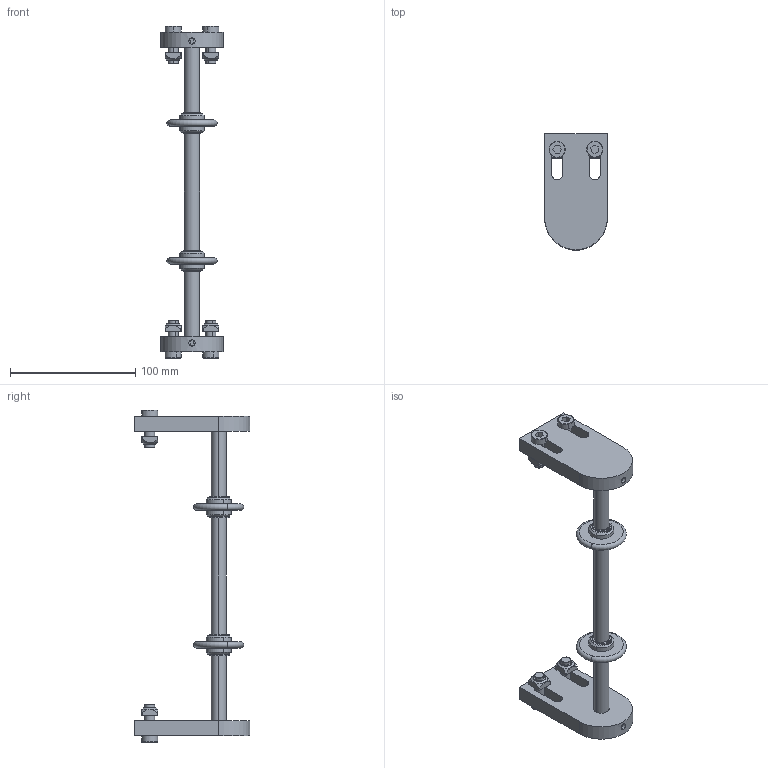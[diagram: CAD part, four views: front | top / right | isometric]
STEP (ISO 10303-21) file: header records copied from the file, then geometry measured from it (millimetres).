
FILE_DESCRIPTION (( 'STEP AP203' ), '1' );
FILE_NAME ('084.050.KSW.STEP', '2018-03-12T15:21:38', ( '' ), ( '' ), 'SwSTEP 2.0', 'SolidWorks 2016', '' );
FILE_SCHEMA (( 'CONFIG_CONTROL_DESIGN' ));
Length unit declared in the file: millimetre
Products named in the file (8): Parte359^084.050.KSW.200; 084.301.000 VITI ALUSIC_084.301.004; 084.802.030; GRANI A PUNTA PIATTA UNI 5923_M6x16 UNI 5923; 084.302.000 DADI ALUSIC 13x13-1_084.302.004; 084.050.KSW; circlip for shafts normal_din_Circlip DIN 471 - 12 x 1; 084.802.041
Assembly tree (19 placements, depth 2):
  084.050.KSW
    Parte359^084.050.KSW.200
    084.802.041  x2
    084.802.030  x2
    GRANI A PUNTA PIATTA UNI 5923_M6x16 UNI 5923  x2
    084.301.000 VITI ALUSIC_084.301.004  x4
    084.302.000 DADI ALUSIC 13x13-1_084.302.004  x4
    circlip for shafts normal_din_Circlip DIN 471 - 12 x 1  x4
Bounding box: 50 x 92.5 x 265 mm (x, y, z)
Volume: 144260.2 mm3; surface area: 52476.6 mm2
Topology: 19 solids, 19 shells, 360 faces, 878 edges, 572 vertices
Faces by surface type: cylinder 140, plane 136, torus 36, cone 32, bspline 16
Entity records: 5118 total; most frequent: CARTESIAN_POINT 1118, DIRECTION 630, ORIENTED_EDGE 560, EDGE_CURVE 280, AXIS2_PLACEMENT_3D 248, VERTEX_POINT 182, EDGE_LOOP 138, LINE 134
